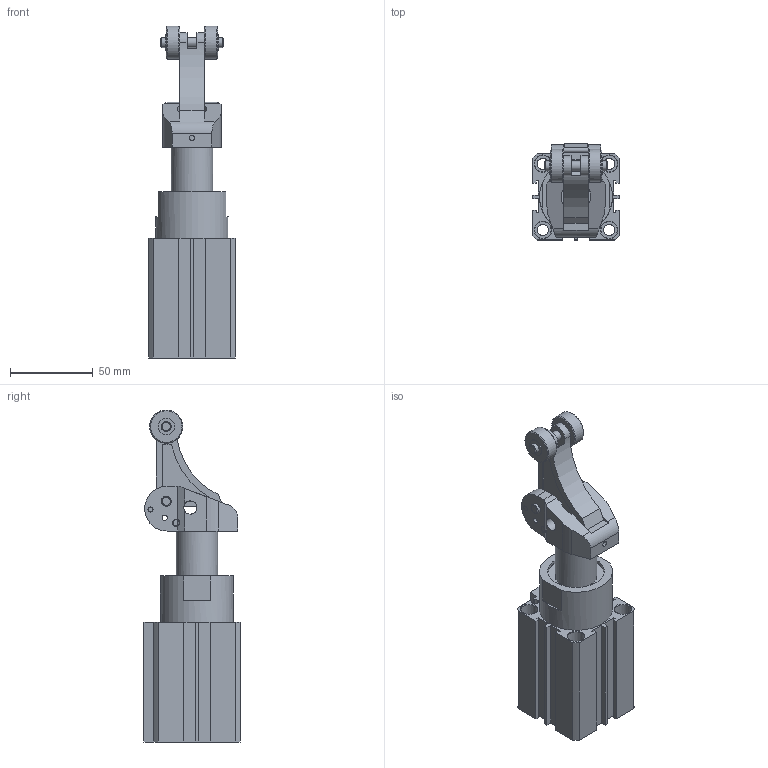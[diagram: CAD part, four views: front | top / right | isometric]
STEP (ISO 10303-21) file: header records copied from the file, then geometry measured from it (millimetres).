
FILE_DESCRIPTION((''),'2;1');
FILE_NAME('I:\3D電子目錄\氣缸\STD\STD40\STD40x20.stp','2007-09-20T13:28:01',('Administrator'),(''),'Autodesk Inventor 11','Autodesk Inventor 11','');
FILE_SCHEMA(('AUTOMOTIVE_DESIGN { 1 0 10303 214 1 1 1 1 }'));
Length unit declared in the file: millimetre
Products named in the file (1): STD40
Bounding box: 52 x 58 x 200.2 mm (x, y, z)
Volume: 265262.4 mm3; surface area: 58976.2 mm2
Topology: 4 solids, 4 shells, 261 faces, 684 edges, 442 vertices
Faces by surface type: plane 140, cylinder 76, cone 23, bspline 21, torus 1
Full cylindrical faces by diameter (mm): 2.2 x2, 3 x1, 3.1 x4, 3.8 x1, 4 x1, 6 x6, 6.8 x4, 8 x2, 10 x10, 20 x2, 25 x1, 25.2 x1, 29 x1, 34 x1, 35.7 x1, 42 x2, 44 x2, 44.5 x2
Entity records: 8616 total; most frequent: CARTESIAN_POINT 2412, DIRECTION 1277, ORIENTED_EDGE 1194, EDGE_CURVE 597, AXIS2_PLACEMENT_3D 470, VERTEX_POINT 425, EDGE_LOOP 382, VECTOR 337
